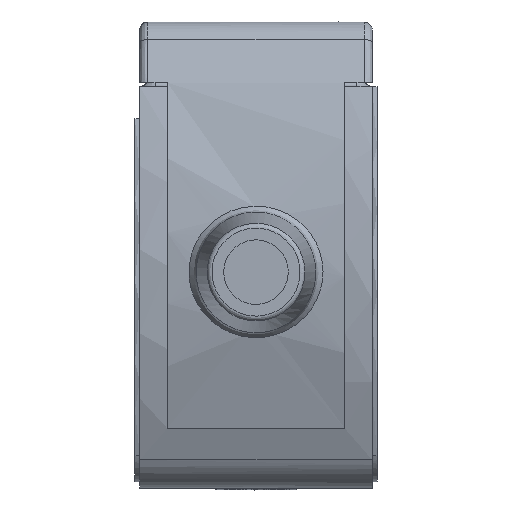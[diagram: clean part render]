
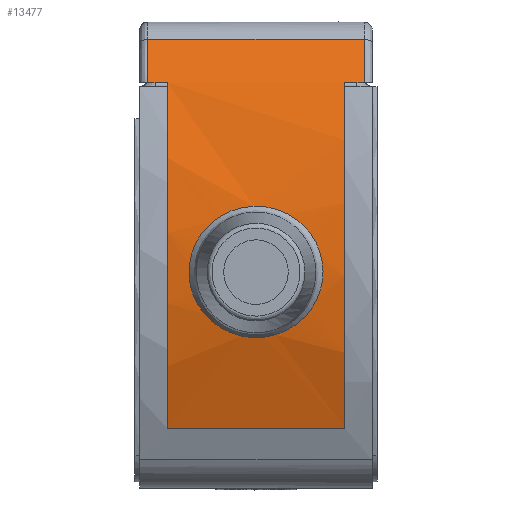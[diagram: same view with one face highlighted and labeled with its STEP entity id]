
A CAD part, front view. The second image highlights one B-rep face of the part: STEP entity #13477.
In plain terms, the highlighted free-form (B-spline) face has degree [2, 1] with [3, 2] control points.
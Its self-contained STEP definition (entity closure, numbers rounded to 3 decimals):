
#541=CARTESIAN_POINT('V466',(-0.712,-53.269,
   21.117));
#542=VERTEX_POINT('V466',#541);
#543=CARTESIAN_POINT('E742',(-0.712,-53.269,
   21.117));
#544=CARTESIAN_POINT('E742',(-0.715,-53.301,
   21.973));
#545=CARTESIAN_POINT('E742',(-0.995,-53.291,
   22.802));
#546=CARTESIAN_POINT('E742',(-2.119,-53.222,
   24.321));
#547=CARTESIAN_POINT('E742',(-3.104,-53.155,
   24.977));
#548=CARTESIAN_POINT('E742',(-5.219,-53.127,
   25.253));
#549=CARTESIAN_POINT('E742',(-6.13,-53.148,
   25.08));
#550=CARTESIAN_POINT('E742',(-7.942,-53.234,
   24.068));
#551=CARTESIAN_POINT('E742',(-8.736,-53.303,
   23.058));
#552=CARTESIAN_POINT('E742',(-9.133,-53.273,
   20.831));
#553=CARTESIAN_POINT('E742',(-8.943,-53.207,
   19.85));
#554=CARTESIAN_POINT('E742',(-7.875,-53.014,
   18.101));
#555=CARTESIAN_POINT('E742',(-6.951,-52.891,
   17.394));
#556=CARTESIAN_POINT('E742',(-4.592,-52.796,
   16.858));
#557=CARTESIAN_POINT('E742',(-3.33,-52.854,
   17.124));
#558=CARTESIAN_POINT('E742',(-1.468,-53.065,
   18.528));
#559=CARTESIAN_POINT('E742',(-0.707,-53.216,
   19.676));
#560=CARTESIAN_POINT('E742',(-0.712,-53.269,
   21.117));
#561=B_SPLINE_CURVE_WITH_KNOTS('E742',3,(#543,#544,#545,#546,#547,
   #548,#549,#550,#551,#552,#553,#554,#555,#556,#557,#558,#559,#560),
   .UNSPECIFIED.,.T.,.U.,(4,2,2,2,2,2,2,2,4),(0.0,
   0.126,0.278,0.389,
   0.533,0.644,0.764,
   0.89,1.0),.UNSPECIFIED.);
#562=EDGE_CURVE('E742',#542,#542,#561,.T.);
#1438=CARTESIAN_POINT('V112',(1.833,-50.05,
   35.506));
#1439=VERTEX_POINT('V112',#1438);
#1499=CARTESIAN_POINT('V103',(-11.567,
   -50.05,35.506));
#1500=VERTEX_POINT('V103',#1499);
#1514=CARTESIAN_POINT('E185',(1.833,-50.05,
   35.506));
#1515=CARTESIAN_POINT('E185',(-11.567,
   -50.05,35.506));
#1516=B_SPLINE_CURVE_WITH_KNOTS('E185',1,(#1514,#1515),
   .POLYLINE_FORM.,.F.,.U.,(2,2),(2.229,
   8.355),.UNSPECIFIED.);
#1517=EDGE_CURVE('E185',#1439,#1500,#1516,.T.);
#1657=CARTESIAN_POINT('V105',(-11.567,
   -51.263,32.838));
#1658=VERTEX_POINT('V105',#1657);
#1667=CARTESIAN_POINT('E150',(-11.567,
   -50.05,35.506));
#1668=CARTESIAN_POINT('E150',(-11.567,
   -50.724,34.203));
#1669=CARTESIAN_POINT('E150',(-11.567,
   -51.263,32.838));
#1677=(BOUNDED_CURVE()B_SPLINE_CURVE(2,(#1667,#1668,#1669),
   .CIRCULAR_ARC.,.F.,.U.)B_SPLINE_CURVE_WITH_KNOTS((3,3),(2.0,
   5.669),.UNSPECIFIED.)CURVE()
   GEOMETRIC_REPRESENTATION_ITEM()RATIONAL_B_SPLINE_CURVE((1.0,
   0.999,1.0))REPRESENTATION_ITEM('E150'));
#1678=EDGE_CURVE('E150',#1500,#1658,#1677,.T.);
#2048=CARTESIAN_POINT('V114',(1.833,-51.263,
   32.838));
#2049=VERTEX_POINT('V114',#2048);
#2060=CARTESIAN_POINT('E167',(1.833,-51.263,
   32.838));
#2061=CARTESIAN_POINT('E167',(1.833,-50.724,
   34.203));
#2062=CARTESIAN_POINT('E167',(1.833,-50.05,
   35.506));
#2070=(BOUNDED_CURVE()B_SPLINE_CURVE(2,(#2060,#2061,#2062),
   .CIRCULAR_ARC.,.F.,.U.)B_SPLINE_CURVE_WITH_KNOTS((3,3),(2.0,
   5.669),.UNSPECIFIED.)CURVE()
   GEOMETRIC_REPRESENTATION_ITEM()RATIONAL_B_SPLINE_CURVE((1.0,
   0.999,1.0))REPRESENTATION_ITEM('E167'));
#2071=EDGE_CURVE('E167',#2049,#1439,#2070,.T.);
#13346=CARTESIAN_POINT('V463',(-10.367,
   -51.211,11.407));
#13347=VERTEX_POINT('V463',#13346);
#13361=CARTESIAN_POINT('V465',(-10.367,
   -51.263,32.838));
#13362=VERTEX_POINT('V465',#13361);
#13363=CARTESIAN_POINT('E741',(-10.367,
   -51.263,32.838));
#13364=CARTESIAN_POINT('E741',(-10.367,
   -55.498,22.112));
#13365=CARTESIAN_POINT('E741',(-10.367,
   -51.211,11.407));
#13373=(BOUNDED_CURVE()B_SPLINE_CURVE(2,(#13363,#13364,#13365),
   .CIRCULAR_ARC.,.F.,.U.)B_SPLINE_CURVE_WITH_KNOTS((3,3),(0.0,
   0.865),.UNSPECIFIED.)CURVE()
   GEOMETRIC_REPRESENTATION_ITEM()RATIONAL_B_SPLINE_CURVE((
   0.927,0.777,0.754))
   REPRESENTATION_ITEM('E741'));
#13374=EDGE_CURVE('E741',#13362,#13347,#13373,.T.);
#13399=CARTESIAN_POINT('V462',(0.633,-51.211,
   11.407));
#13400=VERTEX_POINT('V462',#13399);
#13401=CARTESIAN_POINT('E737',(0.633,-51.211,
   11.407));
#13402=CARTESIAN_POINT('E737',(-10.367,
   -51.211,11.407));
#13403=B_SPLINE_CURVE_WITH_KNOTS('E737',1,(#13401,#13402),
   .POLYLINE_FORM.,.F.,.U.,(2,2),(0.118,
   0.882),.UNSPECIFIED.);
#13404=EDGE_CURVE('E737',#13400,#13347,#13403,.T.);
#13428=CARTESIAN_POINT('F284',(-12.067,
   -49.461,36.588));
#13429=CARTESIAN_POINT('F284',(-12.067,
   -57.599,22.363));
#13430=CARTESIAN_POINT('F284',(-12.067,
   -49.611,8.053));
#13431=CARTESIAN_POINT('F284',(2.333,-49.461,
   36.588));
#13432=CARTESIAN_POINT('F284',(2.333,-57.599,
   22.363));
#13433=CARTESIAN_POINT('F284',(2.333,-49.611,
   8.053));
#13441=(BOUNDED_SURFACE()B_SPLINE_SURFACE(2,1,((#13428,#13431),(
   #13429,#13432),(#13430,#13433)),.CYLINDRICAL_SURF.,.F.,.F.,.U.)
   B_SPLINE_SURFACE_WITH_KNOTS((3,3),(2,2),(0.0,
   2.276),(0.0,1.0),.UNSPECIFIED.)
   GEOMETRIC_REPRESENTATION_ITEM()RATIONAL_B_SPLINE_SURFACE(((1.0,
   1.0),(0.871,0.871),(1.0,1.0)))
   REPRESENTATION_ITEM('F284')SURFACE());
#13442=ORIENTED_EDGE('E737',*,*,#13404,.F.);
#13443=CARTESIAN_POINT('V464',(0.633,-51.263,
   32.838));
#13444=VERTEX_POINT('V464',#13443);
#13445=CARTESIAN_POINT('E738',(0.633,-51.211,
   11.407));
#13446=CARTESIAN_POINT('E738',(0.633,-55.498,
   22.112));
#13447=CARTESIAN_POINT('E738',(0.633,-51.263,
   32.838));
#13455=(BOUNDED_CURVE()B_SPLINE_CURVE(2,(#13445,#13446,#13447),
   .CIRCULAR_ARC.,.F.,.U.)B_SPLINE_CURVE_WITH_KNOTS((3,3),(
   0.135,1.0),.UNSPECIFIED.)CURVE()
   GEOMETRIC_REPRESENTATION_ITEM()RATIONAL_B_SPLINE_CURVE((
   0.754,0.777,0.927))
   REPRESENTATION_ITEM('E738'));
#13456=EDGE_CURVE('E738',#13400,#13444,#13455,.T.);
#13457=ORIENTED_EDGE('E738',*,*,#13456,.T.);
#13458=CARTESIAN_POINT('E739',(0.633,-51.263,
   32.838));
#13459=CARTESIAN_POINT('E739',(1.833,-51.263,
   32.838));
#13460=B_SPLINE_CURVE_WITH_KNOTS('E739',1,(#13458,#13459),
   .POLYLINE_FORM.,.F.,.U.,(2,2),(0.0,0.706),
   .UNSPECIFIED.);
#13461=EDGE_CURVE('E739',#13444,#2049,#13460,.T.);
#13462=ORIENTED_EDGE('E739',*,*,#13461,.T.);
#13463=ORIENTED_EDGE('F51',*,*,#2071,.T.);
#13464=ORIENTED_EDGE('E185',*,*,#1517,.T.);
#13465=ORIENTED_EDGE('F44',*,*,#1678,.T.);
#13466=CARTESIAN_POINT('E740',(-11.567,
   -51.263,32.838));
#13467=CARTESIAN_POINT('E740',(-10.367,
   -51.263,32.838));
#13468=B_SPLINE_CURVE_WITH_KNOTS('E740',1,(#13466,#13467),
   .POLYLINE_FORM.,.F.,.U.,(2,2),(0.294,1.0),
   .UNSPECIFIED.);
#13469=EDGE_CURVE('E740',#1658,#13362,#13468,.T.);
#13470=ORIENTED_EDGE('E740',*,*,#13469,.T.);
#13471=ORIENTED_EDGE('E741',*,*,#13374,.T.);
#13472=EDGE_LOOP('F284',(#13442,#13457,#13462,#13463,#13464,#13465,
   #13470,#13471));
#13473=FACE_OUTER_BOUND('F284',#13472,.T.);
#13474=ORIENTED_EDGE('E742',*,*,#562,.F.);
#13475=EDGE_LOOP('F284',(#13474));
#13476=FACE_BOUND('F284',#13475,.T.);
#13477=ADVANCED_FACE('F284',(#13473,#13476),#13441,.T.);
